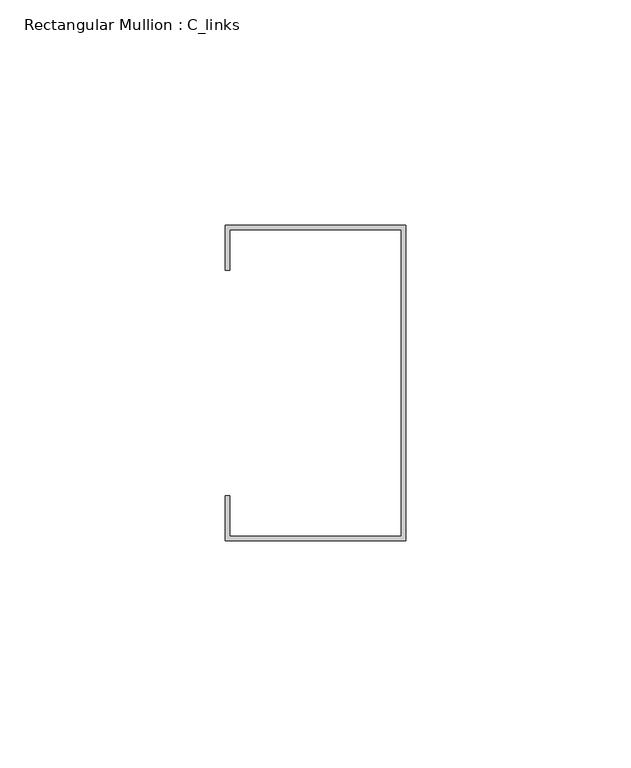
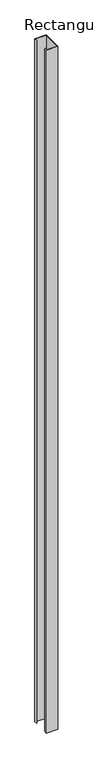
"""IFC4 building model written with IfcOpenShell, lengths in millimetres: member geometry, Rectangular Mullion : C_links."""

from ifc_helpers import new_model, si_unit, frame, origin, place, context, project, spatial, polyline, outline, extrude, source, transform, mapped, element, save


def rectangular_mullion_c_links_07a1a500(model_context):
    return source(origin(), model_context, "Body", "SweptSolid", [
        extrude(outline(polyline([(-39.0, 34.0), (-39.0, 25.0), (-40.0, 25.0), (-40.0, 35.0), (0.0, 35.0), (0.0, -35.0), (-40.0, -35.0), (-40.0, -25.0), (-39.0, -25.0), (-39.0, -34.0), (-1.0, -34.0), (-1.0, 34.0), (-39.0, 34.0)])), frame((0.0, 0.0, -2520.0), z_axis=(0.0, 0.0, 1.0), x_axis=(1.0, 0.0, 0.0)), (0.0, 0.0, 1.0), 2520.0),
    ])


if __name__ == "__main__":
    model = new_model("IFC4")
    model_context = context("Model", 3, world=origin())
    ifc_project = project(units=[si_unit("LENGTHUNIT", "METRE", prefix="MILLI")], contexts=[model_context])
    site = spatial("IfcSite", under=ifc_project)
    building = spatial("IfcBuilding", under=site)
    placement = place(None, origin())
    rectangular_mullion_c_links_shape = rectangular_mullion_c_links_07a1a500(model_context)
    element("IfcMember", 1, ObjectType="Rectangular Mullion : C_links", at=placement, inside=building, context=model_context, shape_type="MappedRepresentation", body=[
        mapped(rectangular_mullion_c_links_shape, transform((0.0, 0.0, 0.0), x_axis=(1.0, 0.0, 0.0), y_axis=(0.0, 1.0, 0.0), z_axis=(0.0, 0.0, 1.0))),
    ])
    save(model, "model.ifc")
